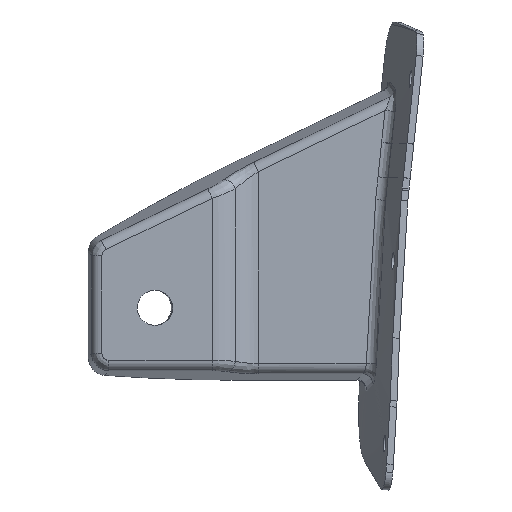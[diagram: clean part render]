
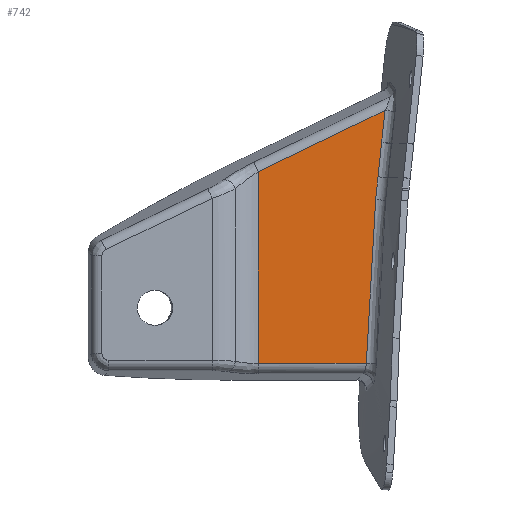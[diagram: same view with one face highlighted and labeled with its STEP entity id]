
A CAD part, top view. The second image highlights one B-rep face of the part: STEP entity #742.
In plain terms, the highlighted planar face has unit normal (0, 0, 1).
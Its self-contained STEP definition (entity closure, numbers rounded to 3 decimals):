
#212=PLANE('',#4272);
#389=LINE('',#8943,#575);
#392=LINE('',#8984,#578);
#393=LINE('',#8987,#579);
#394=LINE('',#8989,#580);
#395=LINE('',#8991,#581);
#396=LINE('',#9002,#582);
#575=VECTOR('',#4661,1.);
#578=VECTOR('',#4670,1.);
#579=VECTOR('',#4671,1.);
#580=VECTOR('',#4672,1.);
#581=VECTOR('',#4673,1.);
#582=VECTOR('',#4674,1.);
#742=ADVANCED_FACE('DAM',(#1033),#212,.T.);
#1033=FACE_OUTER_BOUND('',#1250,.T.);
#1250=EDGE_LOOP('',(#2094,#2095,#2096,#2097,#2098,#2099,#2100,#2101,#2102,
#2103));
#2094=ORIENTED_EDGE('',*,*,#3515,.T.);
#2095=ORIENTED_EDGE('',*,*,#3516,.T.);
#2096=ORIENTED_EDGE('',*,*,#3517,.T.);
#2097=ORIENTED_EDGE('',*,*,#3518,.F.);
#2098=ORIENTED_EDGE('',*,*,#3412,.T.);
#2099=ORIENTED_EDGE('',*,*,#3509,.T.);
#2100=ORIENTED_EDGE('',*,*,#3519,.T.);
#2101=ORIENTED_EDGE('',*,*,#3520,.T.);
#2102=ORIENTED_EDGE('',*,*,#3521,.T.);
#2103=ORIENTED_EDGE('',*,*,#3522,.T.);
#2879=VERTEX_POINT('',#7305);
#2880=VERTEX_POINT('',#7332);
#2947=VERTEX_POINT('',#8942);
#2950=VERTEX_POINT('',#8985);
#2951=VERTEX_POINT('',#8986);
#2952=VERTEX_POINT('',#8988);
#2953=VERTEX_POINT('',#8990);
#2954=VERTEX_POINT('',#9001);
#2955=VERTEX_POINT('',#9003);
#2956=VERTEX_POINT('',#9010);
#3412=EDGE_CURVE('',#2880,#2879,#3911,.T.);
#3509=EDGE_CURVE('LINE',#2879,#2947,#389,.T.);
#3515=EDGE_CURVE('LINE',#2950,#2951,#392,.T.);
#3516=EDGE_CURVE('LINE',#2951,#2952,#393,.T.);
#3517=EDGE_CURVE('LINE',#2952,#2953,#394,.T.);
#3518=EDGE_CURVE('LINE',#2880,#2953,#395,.T.);
#3519=EDGE_CURVE('',#2947,#2954,#3985,.T.);
#3520=EDGE_CURVE('',#2954,#2955,#396,.T.);
#3521=EDGE_CURVE('',#2955,#2956,#3986,.T.);
#3522=EDGE_CURVE('',#2956,#2950,#3987,.T.);
#3911=B_SPLINE_CURVE_WITH_KNOTS('',3,(#7306,#7307,#7308,#7309,#7310,#7311,
#7312,#7313,#7314,#7315,#7316,#7317,#7318,#7319,#7320,#7321,#7322,#7323,
#7324,#7325,#7326,#7327,#7328,#7329,#7330,#7331),.UNSPECIFIED.,.F.,.F.,
(4,2,1,1,2,2,1,1,1,2,2,1,1,1,2,2,4),(0.,0.125,0.188,
0.219,0.234,0.25,0.375,
0.438,0.469,0.484,0.5,
0.625,0.687,0.719,0.734,
0.75,1.),.UNSPECIFIED.);
#3985=B_SPLINE_CURVE_WITH_KNOTS('',5,(#8992,#8993,#8994,#8995,#8996,#8997,
#8998,#8999,#9000),.UNSPECIFIED.,.F.,.F.,(6,3,6),(0.,0.392,
1.),.UNSPECIFIED.);
#3986=B_SPLINE_CURVE_WITH_KNOTS('',5,(#9004,#9005,#9006,#9007,#9008,#9009),
 .UNSPECIFIED.,.F.,.F.,(6,6),(0.,1.),.UNSPECIFIED.);
#3987=B_SPLINE_CURVE_WITH_KNOTS('',5,(#9011,#9012,#9013,#9014,#9015,#9016),
 .UNSPECIFIED.,.F.,.F.,(6,6),(0.,1.),.UNSPECIFIED.);
#4272=AXIS2_PLACEMENT_3D('',#9017,#4675,#4676);
#4661=DIRECTION('',(0.102,0.995,0.));
#4670=DIRECTION('',(-0.901,-0.434,0.));
#4671=DIRECTION('',(0.,-1.,0.));
#4672=DIRECTION('',(1.,0.,0.));
#4673=DIRECTION('',(-0.999,0.039,0.));
#4674=DIRECTION('',(0.109,0.994,0.));
#4675=DIRECTION('',(0.,0.,1.));
#4676=DIRECTION('',(-1.,0.,0.));
#7305=CARTESIAN_POINT('',(4015.066,-732.812,309.9));
#7306=CARTESIAN_POINT('',(4012.388,-779.554,309.9));
#7307=CARTESIAN_POINT('',(4012.465,-777.605,309.9));
#7308=CARTESIAN_POINT('',(4012.542,-775.655,309.9));
#7309=CARTESIAN_POINT('',(4012.657,-772.731,309.9));
#7310=CARTESIAN_POINT('',(4012.716,-771.269,309.9));
#7311=CARTESIAN_POINT('',(4012.786,-769.563,309.9));
#7312=CARTESIAN_POINT('',(4012.817,-768.832,309.9));
#7313=CARTESIAN_POINT('',(4012.837,-768.345,309.9));
#7314=CARTESIAN_POINT('',(4012.846,-768.132,309.9));
#7315=CARTESIAN_POINT('',(4012.95,-765.663,309.9));
#7316=CARTESIAN_POINT('',(4013.087,-762.555,309.9));
#7317=CARTESIAN_POINT('',(4013.244,-759.252,309.9));
#7318=CARTESIAN_POINT('',(4013.323,-757.681,309.9));
#7319=CARTESIAN_POINT('',(4013.356,-757.025,309.9));
#7320=CARTESIAN_POINT('',(4013.379,-756.592,309.9));
#7321=CARTESIAN_POINT('',(4013.387,-756.425,309.9));
#7322=CARTESIAN_POINT('',(4013.51,-754.076,309.9));
#7323=CARTESIAN_POINT('',(4013.68,-751.049,309.9));
#7324=CARTESIAN_POINT('',(4013.89,-747.703,309.9));
#7325=CARTESIAN_POINT('',(4013.997,-746.076,309.9));
#7326=CARTESIAN_POINT('',(4014.044,-745.389,309.9));
#7327=CARTESIAN_POINT('',(4014.076,-744.932,309.9));
#7328=CARTESIAN_POINT('',(4014.089,-744.735,309.9));
#7329=CARTESIAN_POINT('',(4014.393,-740.392,309.9));
#7330=CARTESIAN_POINT('',(4014.713,-736.503,309.9));
#7331=CARTESIAN_POINT('',(4015.066,-732.812,309.9));
#7332=CARTESIAN_POINT('',(4012.388,-779.555,309.9));
#8942=CARTESIAN_POINT('',(4015.729,-726.354,309.9));
#8943=CARTESIAN_POINT('',(4015.067,-732.797,309.9));
#8984=CARTESIAN_POINT('',(3999.676,-716.153,309.9));
#8985=CARTESIAN_POINT('',(4017.743,-707.445,309.9));
#8986=CARTESIAN_POINT('',(3981.609,-724.861,309.9));
#8987=CARTESIAN_POINT('',(3981.609,-752.208,309.9));
#8988=CARTESIAN_POINT('',(3981.609,-779.554,309.9));
#8989=CARTESIAN_POINT('',(3996.997,-779.554,309.9));
#8990=CARTESIAN_POINT('',(4012.385,-779.554,309.9));
#8991=CARTESIAN_POINT('',(4012.386,-779.555,309.9));
#8992=CARTESIAN_POINT('',(4015.729,-726.354,309.9));
#8993=CARTESIAN_POINT('',(4015.809,-725.604,309.9));
#8994=CARTESIAN_POINT('',(4015.89,-724.853,309.9));
#8995=CARTESIAN_POINT('',(4015.987,-723.953,309.9));
#8996=CARTESIAN_POINT('',(4016.19,-722.036,309.9));
#8997=CARTESIAN_POINT('',(4016.385,-720.117,309.9));
#8998=CARTESIAN_POINT('',(4016.503,-718.95,309.9));
#8999=CARTESIAN_POINT('',(4016.624,-717.782,309.9));
#9000=CARTESIAN_POINT('',(4016.751,-716.616,309.9));
#9001=CARTESIAN_POINT('',(4016.751,-716.616,309.9));
#9002=CARTESIAN_POINT('',(4016.752,-716.606,309.9));
#9003=CARTESIAN_POINT('',(4016.753,-716.595,309.9));
#9004=CARTESIAN_POINT('',(4016.753,-716.595,309.9));
#9005=CARTESIAN_POINT('',(4016.757,-716.567,309.9));
#9006=CARTESIAN_POINT('',(4016.76,-716.538,309.9));
#9007=CARTESIAN_POINT('',(4016.763,-716.509,309.9));
#9008=CARTESIAN_POINT('',(4016.766,-716.48,309.9));
#9009=CARTESIAN_POINT('',(4016.769,-716.451,309.9));
#9010=CARTESIAN_POINT('',(4016.769,-716.451,309.9));
#9011=CARTESIAN_POINT('',(4016.769,-716.451,309.9));
#9012=CARTESIAN_POINT('',(4016.968,-714.65,309.9));
#9013=CARTESIAN_POINT('',(4017.165,-712.849,309.9));
#9014=CARTESIAN_POINT('',(4017.359,-711.048,309.9));
#9015=CARTESIAN_POINT('',(4017.552,-709.247,309.9));
#9016=CARTESIAN_POINT('',(4017.743,-707.445,309.9));
#9017=CARTESIAN_POINT('',(3952.,-763.708,309.9));
